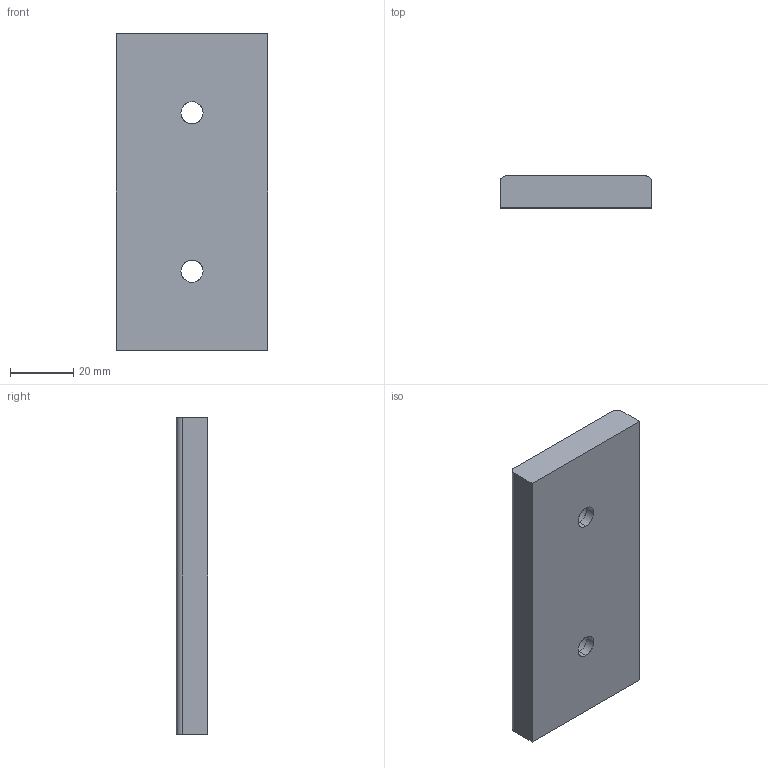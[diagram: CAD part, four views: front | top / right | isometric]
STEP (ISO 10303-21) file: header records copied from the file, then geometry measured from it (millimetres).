
FILE_DESCRIPTION(('CATIA V5 STEP Exchange'),'2;1');
FILE_NAME('C:\Users\Utente\Desktop\3D files A606\A606-048-100.stp','2020-04-13T18:04:35+00:00',('none'),('none'),'CATIA Version 5 Release 20 GA (IN-10)','CATIA V5 STEP AP203','none');
FILE_SCHEMA(('CONFIG_CONTROL_DESIGN'));
Length unit declared in the file: millimetre
Products named in the file (1): Noname
Bounding box: 48 x 10 x 100 mm (x, y, z)
Surface area: 12846.7 mm2 (no closed solid volume)
Topology: 0 solids, 14 shells, 18 faces, 76 edges, 68 vertices
Faces by surface type: cylinder 10, extrusion 8
Entity records: 1044 total; most frequent: CARTESIAN_POINT 415, DIRECTION 84, ORIENTED_EDGE 84, EDGE_CURVE 76, VERTEX_POINT 68, VECTOR 44, LINE 36, AXIS2_PLACEMENT_3D 31
